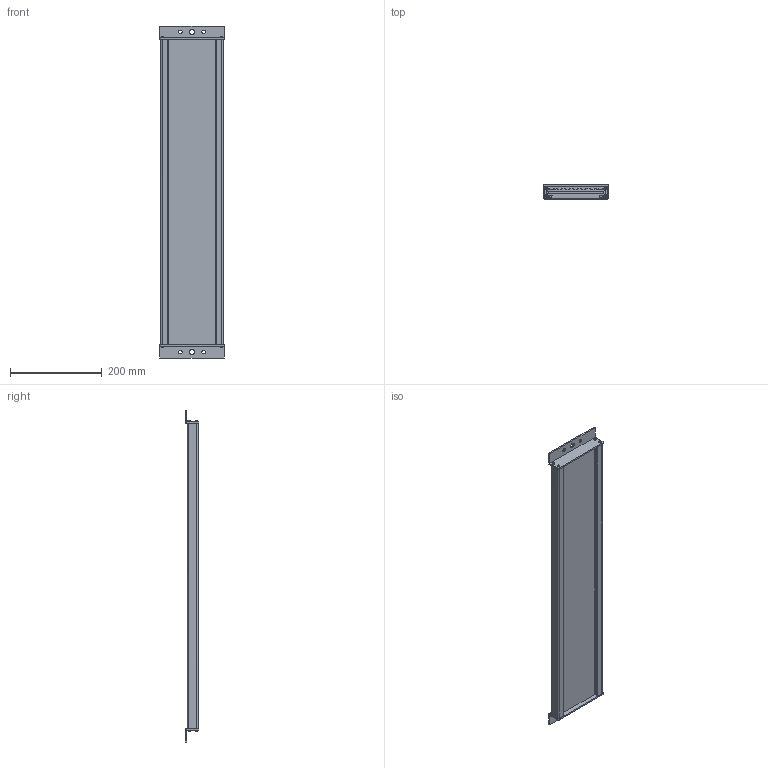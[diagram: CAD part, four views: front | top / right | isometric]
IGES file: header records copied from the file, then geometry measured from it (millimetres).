
Bounding box: 140.02 x 29.97 x 723.13 mm (x, y, z)
Surface area: 614581.5 mm2 (no closed solid volume)
Topology: 0 solids, 0 shells, 526 faces, 3014 edges, 3234 vertices
Faces by surface type: bspline 526
